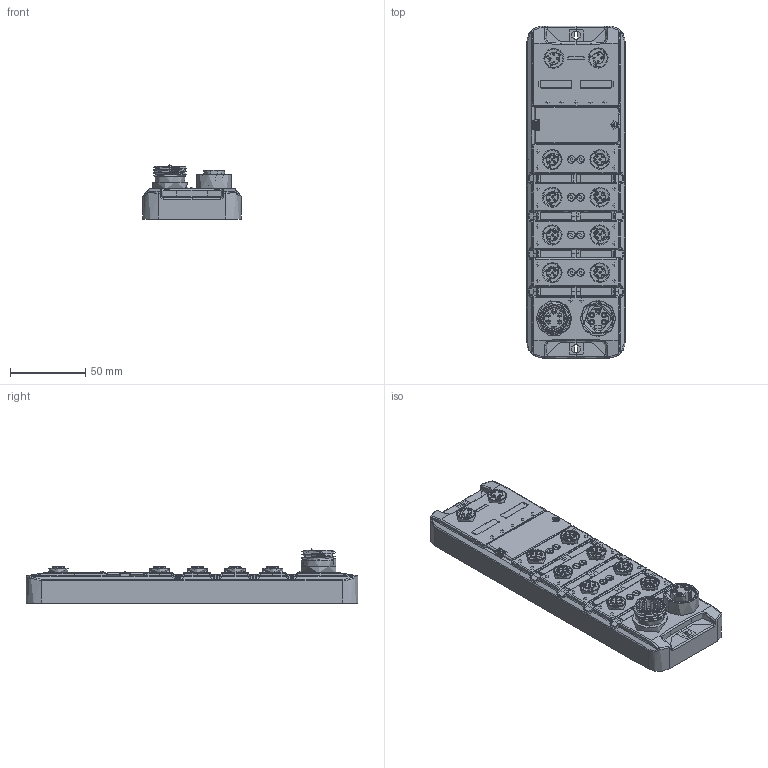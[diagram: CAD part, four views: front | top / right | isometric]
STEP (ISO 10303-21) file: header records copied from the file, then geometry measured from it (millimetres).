
FILE_DESCRIPTION(/* description */ (''),/* implementation_level */ '2;1');
FILE_NAME(/* name */ 'IO_Link主站-A-20230215-2.stp',/* time_stamp */ '2023-02-15T14:45:10+08:00',/* author */ (''),/* organization */ (''),/* preprocessor_version */ 'ST-DEVELOPER v16',/* originating_system */ 'SIEMENS PLM Software NX 10.0',/* authorisation */ '');
FILE_SCHEMA (('AP203_CONFIGURATION_CONTROLLED_3D_DESIGN_OF_MECHANICAL_PARTS_AND_ASSEMBLIES_MIM_LF { 1 0 10303 403 2 1 2}'));
Products named in the file (1): DELL801C838A3jnq
Bounding box: 65 x 220 x 35.91 mm (x, y, z)
Volume: 260924.4 mm3; surface area: 68864.1 mm2
Topology: 47 solids, 69 shells, 5707 faces, 15028 edges, 9752 vertices
Faces by surface type: plane 2930, cylinder 1404, bspline 884, cone 336, torus 79, sphere 49, extrusion 21, revolution 4
Full cylindrical faces by diameter (mm): 0.5 x1, 1.4 x1, 2.4 x1, 3.2 x1, 5.104 x8, 5.4 x1, 13.35 x10, 18.3 x1, 19.5 x1, 23.6 x1
Entity records: 233848 total; most frequent: CARTESIAN_POINT 100400, ORIENTED_EDGE 29824, DIRECTION 24138, EDGE_CURVE 14912, VERTEX_POINT 9724, VECTOR 8638, LINE 8617, AXIS2_PLACEMENT_3D 7748
